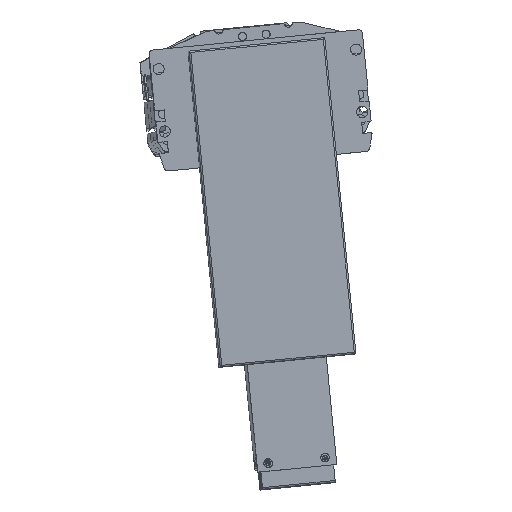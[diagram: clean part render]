
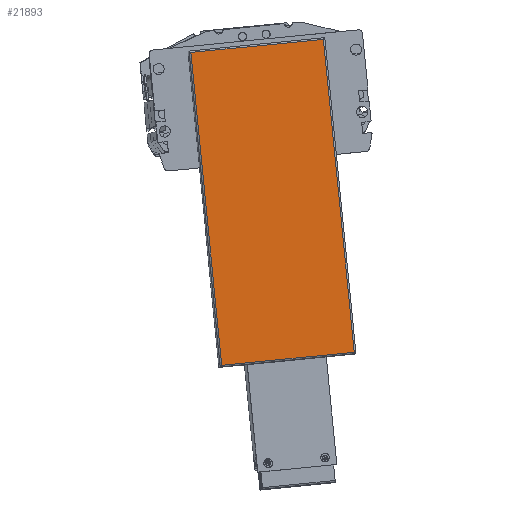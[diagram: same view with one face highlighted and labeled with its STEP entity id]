
A CAD part, top view. The second image highlights one B-rep face of the part: STEP entity #21893.
In plain terms, the highlighted planar face has unit normal (0.017, 0.003, 1) as drawn and (0, 0, 1) by its records, which use the part's own axes.
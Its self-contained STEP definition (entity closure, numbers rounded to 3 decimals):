
#12897 = CARTESIAN_POINT ( 'NONE',  ( -41.95, 72.75, 44. ) ) ;
#12901 = LINE ( 'NONE', #12931, #12930 ) ;
#12916 = CARTESIAN_POINT ( 'NONE',  ( 41.95, -126.25, 44. ) ) ;
#12917 = LINE ( 'NONE', #12916, #12936 ) ;
#12926 = CARTESIAN_POINT ( 'NONE',  ( 41.95, 72.75, 44. ) ) ;
#12929 = DIRECTION ( 'NONE',  ( -1., 0., 0. ) ) ;
#12930 = VECTOR ( 'NONE', #12929, 1000. ) ;
#12931 = CARTESIAN_POINT ( 'NONE',  ( -42.95, 72.75, 44. ) ) ;
#12935 = DIRECTION ( 'NONE',  ( 0., 1., 0. ) ) ;
#12936 = VECTOR ( 'NONE', #12935, 1000. ) ;
#12949 = CARTESIAN_POINT ( 'NONE',  ( 41.95, -125.25, 44. ) ) ;
#12954 = DIRECTION ( 'NONE',  ( 0., -1., 0. ) ) ;
#12955 = VECTOR ( 'NONE', #12954, 1000. ) ;
#12956 = CARTESIAN_POINT ( 'NONE',  ( -41.95, -126.25, 44. ) ) ;
#12957 = LINE ( 'NONE', #12956, #12955 ) ;
#12973 = DIRECTION ( 'NONE',  ( 1., 0., 0. ) ) ;
#12974 = VECTOR ( 'NONE', #12973, 1000. ) ;
#12978 = CARTESIAN_POINT ( 'NONE',  ( -42.95, -125.25, 44. ) ) ;
#12979 = LINE ( 'NONE', #12978, #12974 ) ;
#12987 = CARTESIAN_POINT ( 'NONE',  ( -41.95, -125.25, 44. ) ) ;
#21893 = ADVANCED_FACE ( 'NONE', ( #31544 ), #31542, .T. ) ;
#21898 = ORIENTED_EDGE ( 'NONE', *, *, #60582, .T. ) ;
#31542 = PLANE ( 'NONE',  #31656 ) ;
#31544 = FACE_OUTER_BOUND ( 'NONE', #49791, .T. ) ;
#31652 = DIRECTION ( 'NONE',  ( 1., 0., 0. ) ) ;
#31653 = DIRECTION ( 'NONE',  ( 0., 0., 1. ) ) ;
#31655 = CARTESIAN_POINT ( 'NONE',  ( -42.95, -126.25, 44. ) ) ;
#31656 = AXIS2_PLACEMENT_3D ( 'NONE', #31655, #31653, #31652 ) ;
#49791 = EDGE_LOOP ( 'NONE', ( #60631, #60617, #21898, #49797 ) ) ;
#49797 = ORIENTED_EDGE ( 'NONE', *, *, #60596, .T. ) ;
#60575 = VERTEX_POINT ( 'NONE', #12897 ) ;
#60582 = EDGE_CURVE ( 'NONE', #60585, #60575, #12901, .T. ) ;
#60585 = VERTEX_POINT ( 'NONE', #12926 ) ;
#60596 = EDGE_CURVE ( 'NONE', #60575, #60614, #12957, .T. ) ;
#60610 = VERTEX_POINT ( 'NONE', #12949 ) ;
#60612 = EDGE_CURVE ( 'NONE', #60610, #60585, #12917, .T. ) ;
#60614 = VERTEX_POINT ( 'NONE', #12987 ) ;
#60617 = ORIENTED_EDGE ( 'NONE', *, *, #60612, .T. ) ;
#60619 = EDGE_CURVE ( 'NONE', #60614, #60610, #12979, .T. ) ;
#60631 = ORIENTED_EDGE ( 'NONE', *, *, #60619, .T. ) ;
